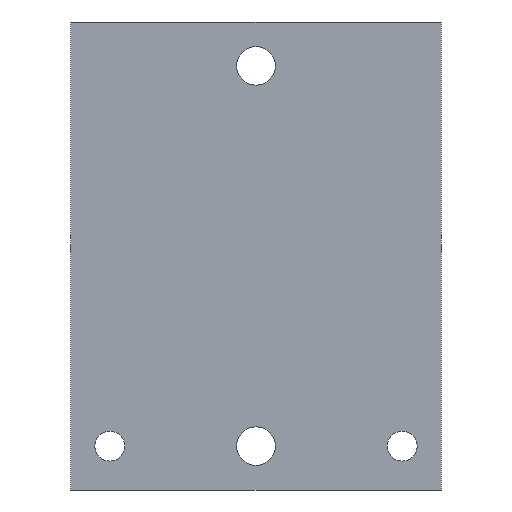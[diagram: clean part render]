
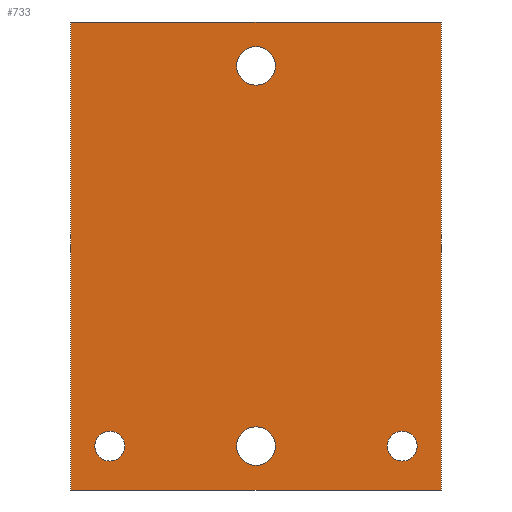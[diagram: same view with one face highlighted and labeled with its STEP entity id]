
A CAD part, front view. The second image highlights one B-rep face of the part: STEP entity #733.
In plain terms, the highlighted planar face has unit normal (0, -1, 0).
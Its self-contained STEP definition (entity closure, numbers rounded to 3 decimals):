
#13=DIRECTION('',(0.,0.,1.));
#14=VECTOR('',#13,80.);
#15=CARTESIAN_POINT('',(31.65,0.,-40.));
#16=LINE('',#15,#14);
#17=DIRECTION('',(-1.,0.,0.));
#18=VECTOR('',#17,63.3);
#19=CARTESIAN_POINT('',(31.65,0.,40.));
#20=LINE('',#19,#18);
#21=DIRECTION('',(-1.,0.,0.));
#22=VECTOR('',#21,63.3);
#23=CARTESIAN_POINT('',(31.65,0.,-40.));
#24=LINE('',#23,#22);
#25=CARTESIAN_POINT('',(0.,0.,-32.5));
#26=DIRECTION('',(0.,1.,0.));
#27=DIRECTION('',(1.,0.,0.));
#28=AXIS2_PLACEMENT_3D('',#25,#26,#27);
#30=CARTESIAN_POINT('',(0.,0.,-32.5));
#31=DIRECTION('',(0.,1.,0.));
#32=DIRECTION('',(-1.,0.,0.));
#33=AXIS2_PLACEMENT_3D('',#30,#31,#32);
#35=CARTESIAN_POINT('',(0.,0.,32.5));
#36=DIRECTION('',(0.,1.,0.));
#37=DIRECTION('',(1.,0.,0.));
#38=AXIS2_PLACEMENT_3D('',#35,#36,#37);
#40=CARTESIAN_POINT('',(0.,0.,32.5));
#41=DIRECTION('',(0.,1.,0.));
#42=DIRECTION('',(-1.,0.,0.));
#43=AXIS2_PLACEMENT_3D('',#40,#41,#42);
#45=CARTESIAN_POINT('',(-25.,0.,-32.5));
#46=DIRECTION('',(0.,-1.,0.));
#47=DIRECTION('',(1.,0.,0.));
#48=AXIS2_PLACEMENT_3D('',#45,#46,#47);
#50=CARTESIAN_POINT('',(-25.,0.,-32.5));
#51=DIRECTION('',(0.,-1.,0.));
#52=DIRECTION('',(-1.,0.,0.));
#53=AXIS2_PLACEMENT_3D('',#50,#51,#52);
#55=CARTESIAN_POINT('',(25.,0.,-32.5));
#56=DIRECTION('',(0.,-1.,0.));
#57=DIRECTION('',(1.,0.,0.));
#58=AXIS2_PLACEMENT_3D('',#55,#56,#57);
#60=CARTESIAN_POINT('',(25.,0.,-32.5));
#61=DIRECTION('',(0.,-1.,0.));
#62=DIRECTION('',(-1.,0.,0.));
#63=AXIS2_PLACEMENT_3D('',#60,#61,#62);
#213=DIRECTION('',(0.,0.,1.));
#214=VECTOR('',#213,80.);
#215=CARTESIAN_POINT('',(-31.65,0.,-40.));
#216=LINE('',#215,#214);
#505=CARTESIAN_POINT('',(31.65,0.,40.));
#507=VERTEX_POINT('',#505);
#511=CARTESIAN_POINT('',(31.65,0.,-40.));
#512=VERTEX_POINT('',#511);
#513=CARTESIAN_POINT('',(-31.65,0.,40.));
#515=VERTEX_POINT('',#513);
#519=CARTESIAN_POINT('',(-31.65,0.,-40.));
#520=VERTEX_POINT('',#519);
#589=CARTESIAN_POINT('',(-22.445,0.,-32.5));
#590=CARTESIAN_POINT('',(-27.555,0.,-32.5));
#591=VERTEX_POINT('',#589);
#592=VERTEX_POINT('',#590);
#597=CARTESIAN_POINT('',(27.555,0.,-32.5));
#598=CARTESIAN_POINT('',(22.445,0.,-32.5));
#599=VERTEX_POINT('',#597);
#600=VERTEX_POINT('',#598);
#613=CARTESIAN_POINT('',(3.3,0.,-32.5));
#614=CARTESIAN_POINT('',(-3.3,0.,-32.5));
#615=VERTEX_POINT('',#613);
#616=VERTEX_POINT('',#614);
#629=CARTESIAN_POINT('',(3.3,0.,32.5));
#630=CARTESIAN_POINT('',(-3.3,0.,32.5));
#631=VERTEX_POINT('',#629);
#632=VERTEX_POINT('',#630);
#696=CARTESIAN_POINT('',(31.65,0.,-40.));
#697=DIRECTION('',(0.,-1.,0.));
#698=DIRECTION('',(0.,0.,1.));
#699=AXIS2_PLACEMENT_3D('',#696,#697,#698);
#700=PLANE('',#699);
#701=ORIENTED_EDGE('',*,*,#676,.F.);
#703=ORIENTED_EDGE('',*,*,#702,.T.);
#705=ORIENTED_EDGE('',*,*,#704,.T.);
#706=ORIENTED_EDGE('',*,*,#687,.F.);
#707=EDGE_LOOP('',(#701,#703,#705,#706));
#708=FACE_OUTER_BOUND('',#707,.F.);
#710=ORIENTED_EDGE('',*,*,#709,.F.);
#712=ORIENTED_EDGE('',*,*,#711,.F.);
#713=EDGE_LOOP('',(#710,#712));
#714=FACE_BOUND('',#713,.F.);
#716=ORIENTED_EDGE('',*,*,#715,.F.);
#718=ORIENTED_EDGE('',*,*,#717,.F.);
#719=EDGE_LOOP('',(#716,#718));
#720=FACE_BOUND('',#719,.F.);
#722=ORIENTED_EDGE('',*,*,#721,.T.);
#724=ORIENTED_EDGE('',*,*,#723,.T.);
#725=EDGE_LOOP('',(#722,#724));
#726=FACE_BOUND('',#725,.F.);
#728=ORIENTED_EDGE('',*,*,#727,.T.);
#730=ORIENTED_EDGE('',*,*,#729,.T.);
#731=EDGE_LOOP('',(#728,#730));
#732=FACE_BOUND('',#731,.F.);
#733=ADVANCED_FACE('',(#708,#714,#720,#726,#732),#700,.T.);
#29=CIRCLE('',#28,3.3);
#34=CIRCLE('',#33,3.3);
#39=CIRCLE('',#38,3.3);
#44=CIRCLE('',#43,3.3);
#49=CIRCLE('',#48,2.555);
#54=CIRCLE('',#53,2.555);
#59=CIRCLE('',#58,2.555);
#64=CIRCLE('',#63,2.555);
#676=EDGE_CURVE('',#512,#507,#16,.T.);
#687=EDGE_CURVE('',#507,#515,#20,.T.);
#702=EDGE_CURVE('',#512,#520,#24,.T.);
#704=EDGE_CURVE('',#520,#515,#216,.T.);
#709=EDGE_CURVE('',#615,#616,#29,.T.);
#711=EDGE_CURVE('',#616,#615,#34,.T.);
#715=EDGE_CURVE('',#631,#632,#39,.T.);
#717=EDGE_CURVE('',#632,#631,#44,.T.);
#721=EDGE_CURVE('',#591,#592,#49,.T.);
#723=EDGE_CURVE('',#592,#591,#54,.T.);
#727=EDGE_CURVE('',#599,#600,#59,.T.);
#729=EDGE_CURVE('',#600,#599,#64,.T.);
